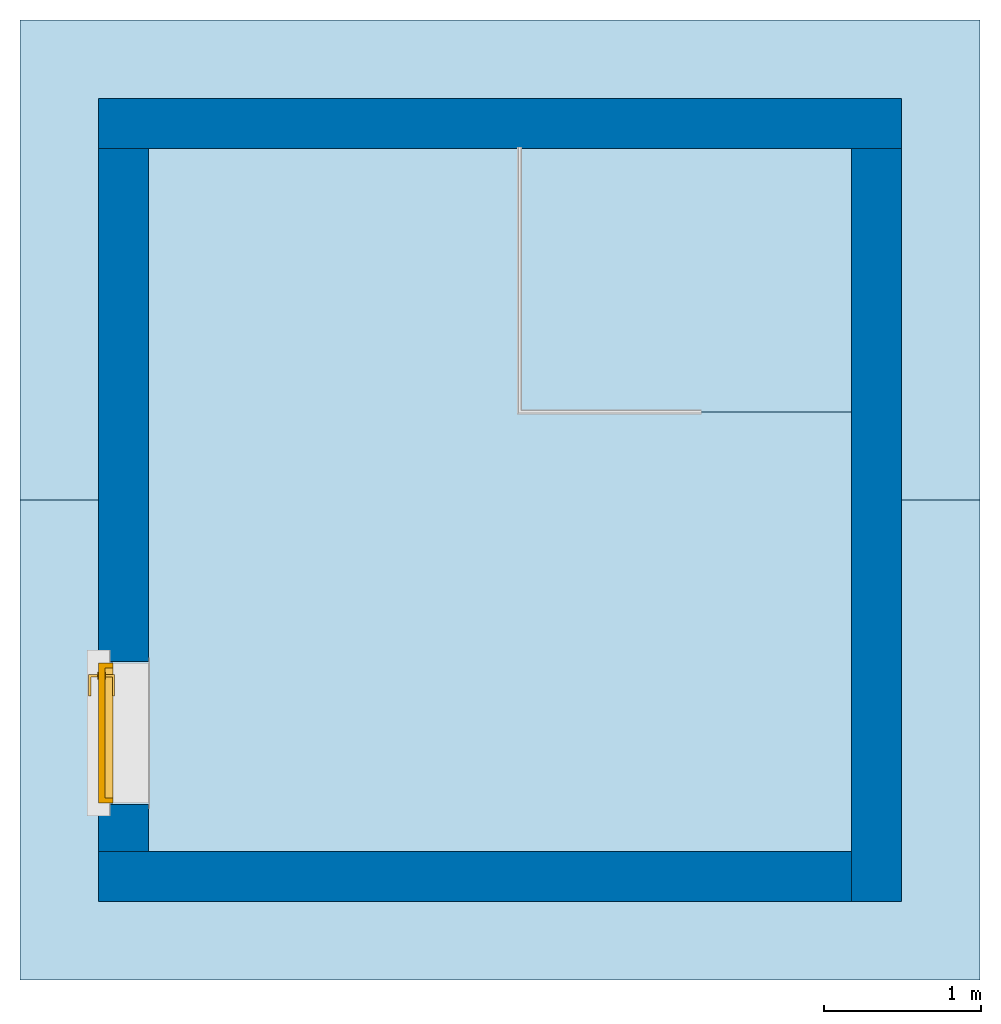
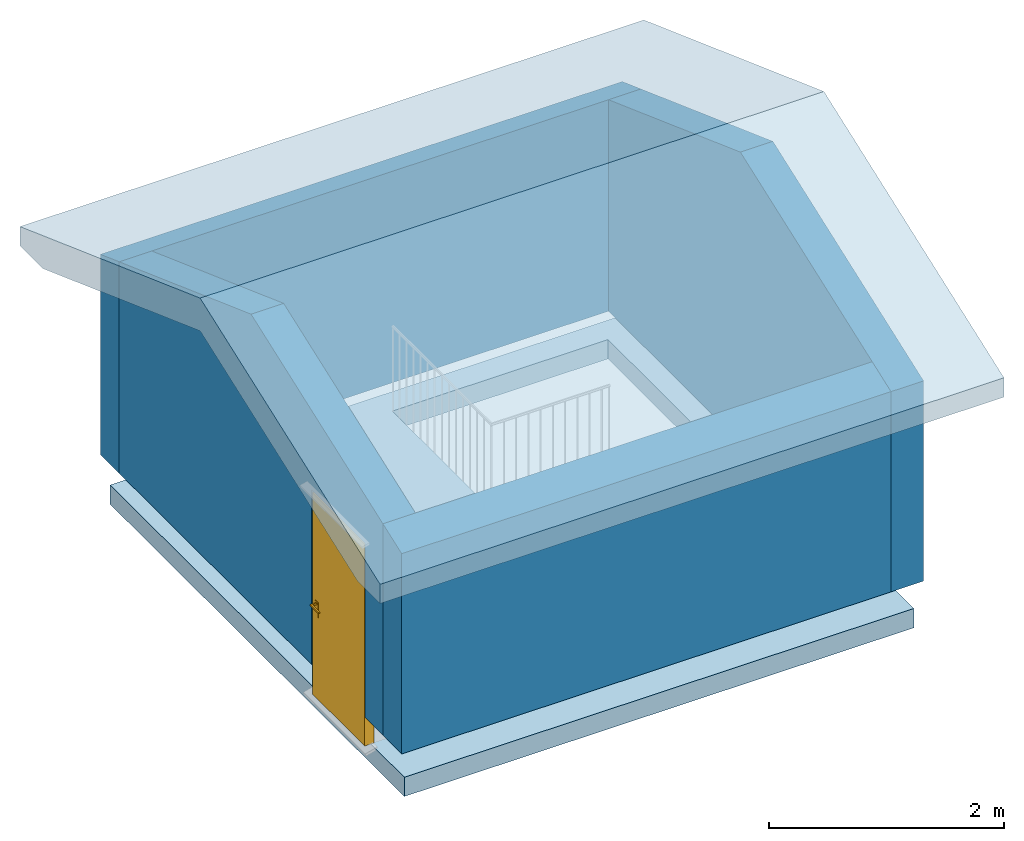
# One storey, part 1 of 3: 4 walls, 1 door, 1 roof, 1 slab, 2 openings.
"""IFC2X3 building model written with IfcOpenShell, lengths in millimetres."""

from ifc_helpers import new_model, entity, si_unit, converted_unit, derived_unit, direction, frame, frame_2d, origin, place, context, subcontext, project, spatial, polyline, rectangle, outline, extrude, clip, bounded_halfspace, faceted_brep, source, transform, mapped, material, material_list, layer, layer_set, layer_usage, type_object, type_shapes, element, fill, save


model = new_model("IFC2X3")

# Units and contexts
model_context = context("Model", 3, precision=0.01, world=origin(), true_north=direction((6.123031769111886e-17, 1.0)))
body_context = subcontext(model_context, "Body", "Model", "MODEL_VIEW")
ifc_project = project(units=[si_unit("LENGTHUNIT", "METRE", prefix="MILLI"), si_unit("AREAUNIT", "SQUARE_METRE"), si_unit("VOLUMEUNIT", "CUBIC_METRE"), converted_unit("PLANEANGLEUNIT", "DEGREE", entity("IfcRatioMeasure", 0.017453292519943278), si_unit("PLANEANGLEUNIT", "RADIAN"), dimensions=[0, 0, 0, 0, 0, 0, 0]), si_unit("MASSUNIT", "GRAM", prefix="KILO"), derived_unit("MASSDENSITYUNIT", [(si_unit("MASSUNIT", "GRAM", prefix="KILO"), 1), (si_unit("LENGTHUNIT", "METRE"), -3)]), derived_unit("IONCONCENTRATIONUNIT", [(si_unit("MASSUNIT", "GRAM", prefix="KILO"), 1), (si_unit("LENGTHUNIT", "METRE"), -3)]), derived_unit("MOMENTOFINERTIAUNIT", [(si_unit("LENGTHUNIT", "METRE"), 4)]), si_unit("TIMEUNIT", "SECOND"), si_unit("FREQUENCYUNIT", "HERTZ"), si_unit("THERMODYNAMICTEMPERATUREUNIT", "DEGREE_CELSIUS"), derived_unit("THERMALTRANSMITTANCEUNIT", [(si_unit("MASSUNIT", "GRAM", prefix="KILO"), 1), (si_unit("THERMODYNAMICTEMPERATUREUNIT", "KELVIN"), -1), (si_unit("TIMEUNIT", "SECOND"), -3)]), derived_unit("THERMALCONDUCTANCEUNIT", [(si_unit("MASSUNIT", "GRAM", prefix="KILO"), 1), (si_unit("THERMODYNAMICTEMPERATUREUNIT", "KELVIN"), -1), (si_unit("TIMEUNIT", "SECOND"), -3), (si_unit("LENGTHUNIT", "METRE"), 1)]), derived_unit("VOLUMETRICFLOWRATEUNIT", [(si_unit("LENGTHUNIT", "METRE"), 3), (si_unit("TIMEUNIT", "SECOND"), -1)]), derived_unit("MASSFLOWRATEUNIT", [(si_unit("MASSUNIT", "GRAM", prefix="KILO"), 1), (si_unit("TIMEUNIT", "SECOND"), -1)]), derived_unit("ROTATIONALFREQUENCYUNIT", [(si_unit("TIMEUNIT", "SECOND"), -1)]), si_unit("ELECTRICCURRENTUNIT", "AMPERE"), si_unit("ELECTRICVOLTAGEUNIT", "VOLT"), si_unit("POWERUNIT", "WATT"), si_unit("FORCEUNIT", "NEWTON", prefix="KILO"), si_unit("ILLUMINANCEUNIT", "LUX"), si_unit("LUMINOUSFLUXUNIT", "LUMEN"), si_unit("LUMINOUSINTENSITYUNIT", "CANDELA"), derived_unit("USERDEFINED", [(si_unit("MASSUNIT", "GRAM", prefix="KILO"), -1), (si_unit("LENGTHUNIT", "METRE"), -2), (si_unit("TIMEUNIT", "SECOND"), 3), (si_unit("LUMINOUSFLUXUNIT", "LUMEN"), 1)]), derived_unit("USERDEFINED", [(si_unit("MASSUNIT", "GRAM", prefix="KILO"), 1), (si_unit("TIMEUNIT", "SECOND"), -3), (si_unit("LENGTHUNIT", "METRE"), 3), (si_unit("ELECTRICCURRENTUNIT", "AMPERE"), -2)]), derived_unit("SOUNDPOWERUNIT", [(si_unit("MASSUNIT", "GRAM", prefix="KILO"), 1), (si_unit("TIMEUNIT", "SECOND"), -3), (si_unit("LENGTHUNIT", "METRE"), 2)]), derived_unit("SOUNDPRESSUREUNIT", [(si_unit("MASSUNIT", "GRAM", prefix="KILO"), 1), (si_unit("LENGTHUNIT", "METRE"), -1), (si_unit("TIMEUNIT", "SECOND"), -2)]), derived_unit("LINEARVELOCITYUNIT", [(si_unit("LENGTHUNIT", "METRE"), 1), (si_unit("TIMEUNIT", "SECOND"), -1)]), si_unit("PRESSUREUNIT", "PASCAL"), derived_unit("USERDEFINED", [(si_unit("MASSUNIT", "GRAM", prefix="KILO"), 1), (si_unit("LENGTHUNIT", "METRE"), -2), (si_unit("TIMEUNIT", "SECOND"), -2)]), derived_unit("LINEARFORCEUNIT", [(si_unit("MASSUNIT", "GRAM", prefix="KILO"), 1), (si_unit("TIMEUNIT", "SECOND"), -2)]), derived_unit("PLANARFORCEUNIT", [(si_unit("MASSUNIT", "GRAM", prefix="KILO"), 1), (si_unit("LENGTHUNIT", "METRE"), -1), (si_unit("TIMEUNIT", "SECOND"), -2)]), derived_unit("SPECIFICHEATCAPACITYUNIT", [(si_unit("THERMODYNAMICTEMPERATUREUNIT", "KELVIN"), -1), (si_unit("LENGTHUNIT", "METRE"), 2), (si_unit("TIMEUNIT", "SECOND"), -2)]), derived_unit("HEATINGVALUEUNIT", [(si_unit("LENGTHUNIT", "METRE"), 2), (si_unit("TIMEUNIT", "SECOND"), -2)]), derived_unit("VAPORPERMEABILITYUNIT", [(si_unit("LENGTHUNIT", "METRE"), -1), (si_unit("TIMEUNIT", "SECOND"), 1)]), derived_unit("DYNAMICVISCOSITYUNIT", [(si_unit("MASSUNIT", "GRAM", prefix="KILO"), 1), (si_unit("TIMEUNIT", "SECOND"), -1), (si_unit("LENGTHUNIT", "METRE"), -1)]), derived_unit("THERMALEXPANSIONCOEFFICIENTUNIT", [(si_unit("THERMODYNAMICTEMPERATUREUNIT", "KELVIN"), -1)]), derived_unit("MODULUSOFELASTICITYUNIT", [(si_unit("MASSUNIT", "GRAM", prefix="KILO"), 1), (si_unit("LENGTHUNIT", "METRE"), -1), (si_unit("TIMEUNIT", "SECOND"), -2)]), derived_unit("ISOTHERMALMOISTURECAPACITYUNIT", [(si_unit("LENGTHUNIT", "METRE"), 3), (si_unit("MASSUNIT", "GRAM", prefix="KILO"), -1)]), derived_unit("MOISTUREDIFFUSIVITYUNIT", [(si_unit("TIMEUNIT", "SECOND"), -1), (si_unit("LENGTHUNIT", "METRE"), 2)])], contexts=[model_context])

# Site, building, storey
site_placement = place(None, origin())
site = spatial("IfcSite", under=ifc_project, at=site_placement, Name="IFCSITE", CompositionType="ELEMENT")
building_placement = place(site_placement, origin())
building = spatial("IfcBuilding", under=site, at=building_placement, CompositionType="ELEMENT")
storey_placement = place(building_placement, frame((0.0, 0.0, 4200.0)))
storey = spatial("IfcBuildingStorey", under=building, at=storey_placement, Name="Plan 1 pumpehus", CompositionType="ELEMENT", Elevation=4200.0)

# Slab, opening
ifc_material_1 = material(Name="Betong - Plasstøpt")
ifc_layer_1 = layer(ifc_material_1, 200.0)
ifc_layer_set_1 = layer_set([ifc_layer_1], Name="Floor:Standard 200mm")
ifc_layer_usage_1 = layer_usage(ifc_layer_set_1, "AXIS3", "POSITIVE", 0.0)
slab_type = type_object("IfcSlabType", Name="Floor:Standard 200mm", PredefinedType="FLOOR", material=ifc_layer_set_1)
slab_placement = place(storey_placement, frame((-60227.51337892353, -14728.925170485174, -200.0)))
slab = element("IfcSlab", 1, at=slab_placement, inside=storey, type_object=slab_type, material=ifc_layer_usage_1, Name="Floor:Standard 200mm", ObjectType="Floor:Standard 200mm", PredefinedType="FLOOR", context=body_context, shape_type="SweptSolid", body=[
    extrude(rectangle(XDim=5000.000000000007, YDim=4999.999999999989, at=frame_2d((0.0, 0.0), x_axis=(0.0, -1.0))), frame((2500.0, 2500.0, 200.0), z_axis=(0.0, 0.0, -1.0), x_axis=(-1.0, 0.0, 0.0)), (0.0, 0.0, 1.0), 200.0),
])
opening_1_placement = place(slab_placement, origin())
element("IfcOpeningElement", 2, at=opening_1_placement, cuts=slab, Name="Floor:Standard 200mm", ObjectType="Opening", context=body_context, shape_type="SweptSolid", body=[
    extrude(rectangle(XDim=1688.237243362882, YDim=2115.9999999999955, at=frame_2d((0.0, -4.320099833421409e-12), x_axis=(1.0, 0.0))), frame((3683.0, 3905.881378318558, 200.0), z_axis=(0.0, 0.0, -1.0), x_axis=(0.0, -1.0, 0.0)), (0.0, 0.0, 1.0), 200.0),
])

# Walls
ifc_material_2 = material(Name="Dobbelfals Stående Kledning - Hvit")
ifc_layer_2 = layer(ifc_material_2, 19.0)
ifc_material_3 = material(Name="Vegg")
ifc_layer_3 = layer(ifc_material_3, 19.0)
ifc_material_4 = material(Name="Luftsjikt")
ifc_layer_4 = layer(ifc_material_4, 11.0)
ifc_material_5 = material(Name="Asfaltplate")
ifc_layer_5 = layer(ifc_material_5, 12.0)
ifc_material_6 = material(Name="Stender/Isolasjon")
ifc_layer_6 = layer(ifc_material_6, 198.0)
ifc_layer_7 = layer(ifc_material_3, 48.0)
ifc_material_7 = material(Name="Vegg - Gips")
ifc_layer_8 = layer(ifc_material_7, 13.000000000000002)
ifc_layer_set_2 = layer_set([ifc_layer_2, ifc_layer_3, ifc_layer_4, ifc_layer_5, ifc_layer_6, ifc_layer_7, ifc_layer_8], Name="Basic Wall:Yttervegg - VSK 200mm Stender med stående kledning")
ifc_layer_usage_2 = layer_usage(ifc_layer_set_2, "AXIS2", "NEGATIVE", 160.0)
wall_type = type_object("IfcWallType", Name="Basic Wall:Yttervegg - VSK 200mm Stender med stående kledning", PredefinedType="STANDARD", material=ifc_layer_set_2)
wall_1_placement = place(storey_placement, frame((-60288.513378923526, -9827.925170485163, 300.0)))
element("IfcWallStandardCase", 3, at=wall_1_placement, inside=storey, type_object=wall_type, material=ifc_layer_usage_2, Name="Basic Wall:Yttervegg - VSK 200mm Stender med stående kledning", ObjectType="Basic Wall:Yttervegg - VSK 200mm Stender med stående kledning", context=body_context, shape_type="Clipping", body=[
    clip(extrude(rectangle(XDim=5121.999999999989, YDim=320.00000000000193, at=frame_2d((2560.9999999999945, 1.9895196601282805e-13), x_axis=(-1.0, 0.0))), origin(), (0.0, 0.0, 1.0), 2194.268290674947), bounded_halfspace(frame((0.0, -160.0, 2194.2682906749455), z_axis=(0.0, 0.3420201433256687, 0.9396926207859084), x_axis=(-1.0, 0.0, 0.0)), False, frame((0.0, -160.0, 2194.2682906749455)), polyline([(0.0, 0.0), (320.0, 0.0), (4802.0, 0.0), (5122.0, 0.0), (5122.0, 320.0), (0.0, 320.0), (0.0, 0.0)]))),
])
wall_2_placement = place(storey_placement, frame((-55326.51337892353, -9987.92517048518, 300.0), z_axis=(0.0, 0.0, 1.0), x_axis=(0.0, -1.0, 0.0)))
element("IfcWallStandardCase", 4, at=wall_2_placement, inside=storey, type_object=wall_type, material=ifc_layer_usage_2, Name="Basic Wall:Yttervegg - VSK 200mm Stender med stående kledning", ObjectType="Basic Wall:Yttervegg - VSK 200mm Stender med stående kledning", context=body_context, shape_type="Clipping", body=[
    clip(clip(extrude(rectangle(XDim=4802.000000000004, YDim=319.9999999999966, at=frame_2d((2401.000000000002, 5.115907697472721e-13), x_axis=(-1.0, 0.0))), origin(), (0.0, 0.0, 1.0), 3009.9255856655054), bounded_halfspace(frame((0.0, -160.0, 2194.2682906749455), z_axis=(-0.3420201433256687, 0.0, 0.9396926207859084), x_axis=(0.0, -1.0, 0.0)), False, frame((0.0, -160.0, 2194.2682906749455)), polyline([(0.0, 0.0), (2241.0, 0.0), (2241.0, 320.0), (0.0, 320.0), (0.0, 0.0)]))), bounded_halfspace(frame((2241.0, -160.0, 3009.9255856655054), z_axis=(0.3420201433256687, 0.0, 0.9396926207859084), x_axis=(0.0, 1.0, 0.0)), False, frame((2241.0, -160.0, 3009.9255856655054)), polyline([(0.0, 0.0), (2241.0, 0.0), (2561.0, 0.0), (2561.0, 320.0), (0.0, 320.0), (0.0, 0.0)]))),
])
wall_3_placement = place(storey_placement, frame((-55486.51337892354, -14629.925170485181, 300.0), z_axis=(0.0, 0.0, 1.0), x_axis=(-1.0, 0.0, 0.0)))
element("IfcWallStandardCase", 5, at=wall_3_placement, inside=storey, type_object=wall_type, material=ifc_layer_usage_2, Name="Basic Wall:Yttervegg - VSK 200mm Stender med stående kledning", ObjectType="Basic Wall:Yttervegg - VSK 200mm Stender med stående kledning", context=body_context, shape_type="Clipping", body=[
    clip(extrude(rectangle(XDim=4801.999999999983, YDim=320.0000000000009, at=frame_2d((2400.9999999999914, 4.831690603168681e-13), x_axis=(-1.0, 0.0))), origin(), (0.0, 0.0, 1.0), 2194.2682906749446), bounded_halfspace(frame((0.0, -160.0, 2194.2682906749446), z_axis=(0.0, 0.3420201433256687, 0.9396926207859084), x_axis=(-1.0, 0.0, 0.0)), False, frame((0.0, -160.0, 2194.2682906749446)), polyline([(0.0, 0.0), (4482.0, 0.0), (4802.0, 0.0), (4802.0, 320.0), (0.0, 320.0), (0.0, 0.0)]))),
])

# Wall, opening, door
wall_4_placement = place(storey_placement, frame((-60128.513378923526, -14469.925170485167, 300.0), z_axis=(0.0, 0.0, 1.0), x_axis=(0.0, 1.0, 0.0)))
wall_4 = element("IfcWallStandardCase", 6, at=wall_4_placement, inside=storey, type_object=wall_type, material=ifc_layer_usage_2, Name="Basic Wall:Yttervegg - VSK 200mm Stender med stående kledning", ObjectType="Basic Wall:Yttervegg - VSK 200mm Stender med stående kledning", context=body_context, shape_type="Clipping", body=[
    clip(clip(extrude(rectangle(XDim=4482.000000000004, YDim=319.99999999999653, at=frame_2d((2241.000000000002, 0.0), x_axis=(-1.0, 0.0))), origin(), (0.0, 0.0, 1.0), 3009.9255856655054), bounded_halfspace(frame((4482.0, -160.0, 2194.2682906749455), z_axis=(0.3420201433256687, 0.0, 0.9396926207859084), x_axis=(0.0, 1.0, 0.0)), False, frame((4482.0, -160.0, 2194.2682906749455)), polyline([(0.0, 0.0), (0.0, 320.0), (-2241.0, 320.0), (-2241.0, 0.0), (0.0, 0.0)]))), bounded_halfspace(frame((0.0, 160.0, 2194.2682906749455), z_axis=(-0.3420201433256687, 0.0, 0.9396926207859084), x_axis=(0.0, -1.0, 0.0)), False, frame((0.0, 160.0, 2194.2682906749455)), polyline([(0.0, 0.0), (0.0, -320.0), (2241.0, -320.0), (2241.0, 0.0), (0.0, 0.0)]))),
])
opening_2_placement = place(wall_4_placement, frame((300.0, -160.0, -300.0)))
opening_2 = element("IfcOpeningElement", 7, at=opening_2_placement, cuts=wall_4, Name="Enfløyet m omramming:Ytterdør 9x21:1", ObjectType="Opening", context=body_context, shape_type="SweptSolid", body=[
    extrude(rectangle(XDim=2110.000000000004, YDim=909.9999999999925, at=frame_2d((1055.0000000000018, 454.99999999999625), x_axis=(1.0, 0.0))), frame((0.0, 0.0, 0.0), z_axis=(0.0, 1.0, 0.0), x_axis=(0.0, 0.0, 1.0)), (0.0, 0.0, 1.0), 320.0),
])
ifc_material_8 = material(Name="Rustfritt Stål")
ifc_material_9 = material(Name="Hvit(1)")
ifc_material_10 = material(Name="Tre")
ifc_material_list = material_list([ifc_material_8, ifc_material_9, ifc_material_10])
door_style = type_object("IfcDoorStyle", Name="Enfløyet m omramming:Ytterdør 9x21", ConstructionType="USERDEFINED", OperationType="SINGLE_SWING_LEFT", ParameterTakesPrecedence=False, Sizeable=False, material=ifc_material_list)
shared_shape = source(origin(), body_context, "Body", "SweptSolid", [
    extrude(outline(polyline([(-33.33333333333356, -50.833333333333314), (24.166666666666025, -50.833333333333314), (24.16666666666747, 86.66666666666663), (9.166666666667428, 86.66666666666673), (9.166666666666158, -35.83333333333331), (-33.333333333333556, -35.83333333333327), (-33.33333333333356, -50.833333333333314)])), frame((776.6666666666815, 337.9410394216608, 980.5000000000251), z_axis=(0.0, 0.0, 1.0), x_axis=(0.0, 1.0, 0.0)), (0.0, 0.0, 1.0), 14.999999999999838),
    extrude(rectangle(XDim=5.599999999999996, YDim=50.00000000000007, at=frame_2d((0.0, -3.375077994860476e-14), x_axis=(1.0, 0.0))), frame((820.0, 301.8000000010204, 850.9862950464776), z_axis=(0.0, 0.0, 1.0), x_axis=(0.0, -1.0, 0.0)), (0.0, 0.0, 1.0), 159.01370495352),
    extrude(outline(polyline([(-50.83333333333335, -33.33333333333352), (-35.83333333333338, -33.33333333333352), (-35.83333333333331, 9.166666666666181), (86.66666666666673, 9.166666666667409), (86.66666666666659, 24.16666666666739), (-50.83333333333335, 24.16666666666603), (-50.83333333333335, -33.33333333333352)])), frame((776.6666666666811, 220.05896058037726, 980.5000000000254), z_axis=(0.0, 0.0, 1.0), x_axis=(-1.0, 0.0, 0.0)), (0.0, 0.0, 1.0), 14.999999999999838),
    extrude(rectangle(XDim=49.99999999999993, YDim=5.599999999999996, at=frame_2d((6.927791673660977e-14, -8.43769498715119e-15), x_axis=(1.0, 0.0))), frame((820.0, 256.200000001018, 850.9862950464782)), (0.0, 0.0, 1.0), 159.01370495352),
    extrude(rectangle(XDim=829.9999999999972, YDim=40.000000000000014, at=frame_2d((0.0, 1.5987211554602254e-14), x_axis=(1.0, 0.0))), frame((455.0, 279.0, 10.0)), (0.0, 0.0, 1.0), 2050.0),
    extrude(rectangle(XDim=91.99999999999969, YDim=829.9999999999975, at=frame_2d((7.105427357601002e-15, -5.684341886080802e-14), x_axis=(1.0, 0.0))), frame((455.0, 253.0, 0.0), z_axis=(0.0, 0.0, 1.0), x_axis=(0.0, -1.0, 0.0)), (0.0, 0.0, 1.0), 9.999999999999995),
    extrude(outline(polyline([(415.0, -1037.499999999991), (445.0, -1037.499999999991), (445.0, 1052.4999999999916), (-445.0, 1052.4999999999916), (-445.0, -1037.4999999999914), (-415.0, -1037.4999999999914), (-415.0, 1022.4999999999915), (415.0, 1022.4999999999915), (415.0, -1037.499999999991)])), frame((455.0, 299.0, 1037.4999999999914), z_axis=(0.0, -1.0, 0.0), x_axis=(1.0, 0.0, 0.0)), (0.0, 0.0, 1.0), 91.99999999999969),
])
type_shapes(door_style, [shared_shape])
door_placement = place(opening_2_placement, frame((0.0, 20.0, 0.0)))
door = element("IfcDoor", 8, at=door_placement, inside=storey, type_object=door_style, material=ifc_material_list, Name="Enfløyet m omramming:Ytterdør 9x21", ObjectType="Enfløyet m omramming:Ytterdør 9x21", OverallHeight=2110.0000000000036, OverallWidth=909.9999999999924, context=body_context, shape_type="MappedRepresentation", body=[
    mapped(shared_shape, transform((0.0, 0.0, 0.0), scale=1.0)),
])
fill(opening_2, door)

# Roof
ifc_material_11 = material(Name="Tak - Eternitt")
ifc_layer_9 = layer(ifc_material_11, 62.0)
ifc_material_12 = material(Name="Tre - Lekter")
ifc_layer_10 = layer(ifc_material_12, 48.0)
ifc_layer_11 = layer(ifc_material_12, 198.0)
ifc_material_13 = material(Name="Tak - Plan Gips")
ifc_layer_12 = layer(ifc_material_13, 13.000000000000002)
ifc_layer_set_3 = layer_set([ifc_layer_9, ifc_layer_10, ifc_layer_11, ifc_layer_12], Name="Basic Roof:Tak Tre 48x198+48 Isolert Eternitt")
roof_placement = place(storey_placement, frame((-60788.513378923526, -15289.925170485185, 2337.413763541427)))
element("IfcRoof", 9, at=roof_placement, inside=storey, material=ifc_layer_set_3, Name="Basic Roof:Tak Tre 48x198+48 Isolert Eternitt", ObjectType="Basic Roof:Tak Tre 48x198+48 Isolert Eternitt", ShapeType="NOTDEFINED", context=body_context, shape_type="Brep", body=[
    faceted_brep([(0.0, 5732.954271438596, 0.0), (6122.0, 5732.954271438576, 0.0), (6122.0, 3061.0, 972.5118221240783), (0.0, 3061.0, 972.5118221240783), (6122.0, 389.04572856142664, 0.0), (0.0, 389.0457285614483, 0.0), (6122.0, 6122.0, 200.0), (0.0, 6122.0, 200.0), (0.0, 3061.0, 1314.1128870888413), (6122.0, 3061.0, 1314.1128870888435), (6122.0, 0.0, 200.0), (0.0, 0.0, 200.0), (0.0, 6122.0, 0.0), (6122.0, 6122.0, 0.0), (6122.0, 0.0, 0.0), (0.0, 0.0, 0.0)], [[[0, 1, 2, 3]], [[2, 4, 5, 3]], [[6, 7, 8, 9]], [[10, 9, 8, 11]], [[12, 7, 6, 13]], [[14, 10, 11, 15]], [[12, 13, 1, 0]], [[14, 15, 5, 4]], [[6, 9, 10, 14, 4, 2, 1, 13]], [[11, 8, 7, 12, 0, 3, 5, 15]]]),
])

save(model, "model.ifc")
